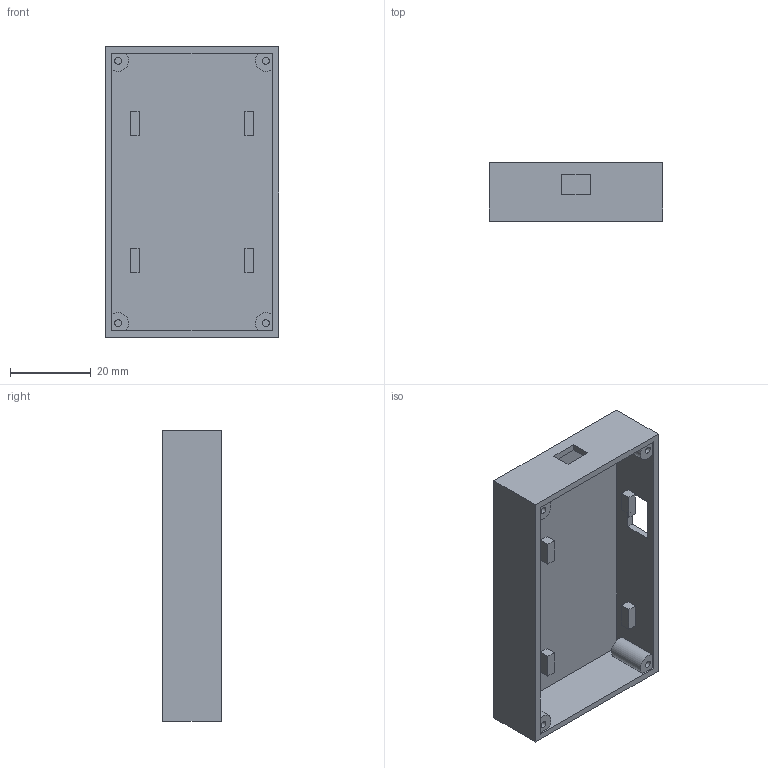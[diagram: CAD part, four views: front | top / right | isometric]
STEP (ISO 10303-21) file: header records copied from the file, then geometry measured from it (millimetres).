
FILE_DESCRIPTION(('Open CASCADE Model'),'2;1');
FILE_NAME('Open CASCADE Shape Model','2026-10-19T02:50:45',('Author'),( 'Open CASCADE'),'Open CASCADE STEP processor 7.9','Open CASCADE 7.9' ,'Unknown');
FILE_SCHEMA(('AUTOMOTIVE_DESIGN { 1 0 10303 214 1 1 1 1 }'));
Length unit declared in the file: millimetre
Products named in the file (6): Open CASCADE STEP translator 7.9 2; Open CASCADE STEP translator 7.9 2.1; Open CASCADE STEP translator 7.9 2.2; Open CASCADE STEP translator 7.9 2.3; Open CASCADE STEP translator 7.9 2.4; Open CASCADE STEP translator 7.9 2.5
Assembly tree (5 placements, depth 2):
  Open CASCADE STEP translator 7.9 2
    Open CASCADE STEP translator 7.9 2.1
    Open CASCADE STEP translator 7.9 2.2
    Open CASCADE STEP translator 7.9 2.3
    Open CASCADE STEP translator 7.9 2.4
    Open CASCADE STEP translator 7.9 2.5
Bounding box: 43 x 14.6 x 72 mm (x, y, z)
Volume: 10140 mm3; surface area: 12868.5 mm2
Topology: 5 solids, 5 shells, 61 faces, 150 edges, 100 vertices
Faces by surface type: plane 53, cylinder 8
Full cylindrical faces by diameter (mm): 1.7 x4
Entity records: 3770 total; most frequent: CARTESIAN_POINT 765, DIRECTION 492, LINE 318, VECTOR 318, ORIENTED_EDGE 300, PCURVE 300, DEFINITIONAL_REPRESENTATION 300, EDGE_CURVE 150
